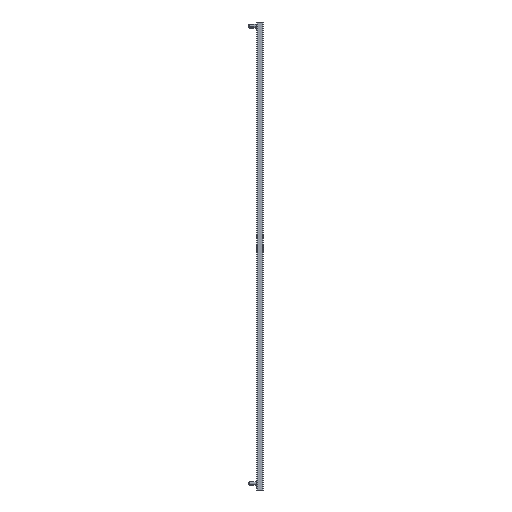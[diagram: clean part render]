
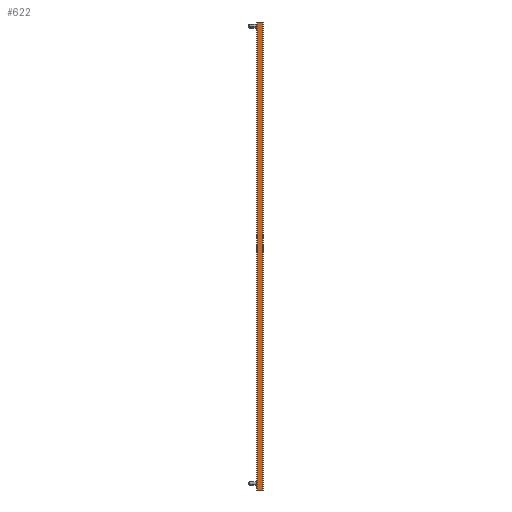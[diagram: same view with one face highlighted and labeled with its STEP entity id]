
A CAD part, left-side view. The second image highlights one B-rep face of the part: STEP entity #622.
In plain terms, the highlighted planar face has unit normal (-1, 0, 0).
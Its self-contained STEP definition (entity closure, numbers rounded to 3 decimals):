
#18 = VERTEX_POINT ( 'NONE', #2603 ) ;
#252 = CARTESIAN_POINT ( 'NONE',  ( -8., 0., 0. ) ) ;
#275 = LINE ( 'NONE', #1021, #315 ) ;
#315 = VECTOR ( 'NONE', #3752, 1000. ) ;
#451 = VERTEX_POINT ( 'NONE', #2082 ) ;
#466 = LINE ( 'NONE', #1845, #3984 ) ;
#510 = DIRECTION ( 'NONE',  ( 0., 1., 0. ) ) ;
#533 = LINE ( 'NONE', #1953, #2994 ) ;
#564 = DIRECTION ( 'NONE',  ( -1., 0., 0. ) ) ;
#622 = ADVANCED_FACE ( 'NONE', ( #2243 ), #4040, .T. ) ;
#650 = VECTOR ( 'NONE', #3501, 1000. ) ;
#680 = CARTESIAN_POINT ( 'NONE',  ( -8., 0., 0. ) ) ;
#703 = ORIENTED_EDGE ( 'NONE', *, *, #3144, .F. ) ;
#716 = CARTESIAN_POINT ( 'NONE',  ( -8., 12.5, 0. ) ) ;
#758 = ORIENTED_EDGE ( 'NONE', *, *, #1106, .T. ) ;
#981 = EDGE_CURVE ( 'NONE', #1652, #3887, #466, .T. ) ;
#996 = DIRECTION ( 'NONE',  ( 0., -1., 0. ) ) ;
#1021 = CARTESIAN_POINT ( 'NONE',  ( -8., 12.5, 879. ) ) ;
#1106 = EDGE_CURVE ( 'NONE', #3663, #1652, #2294, .T. ) ;
#1263 = CARTESIAN_POINT ( 'NONE',  ( -8., 3.2, 879. ) ) ;
#1365 = ORIENTED_EDGE ( 'NONE', *, *, #2142, .T. ) ;
#1438 = VECTOR ( 'NONE', #2259, 1000. ) ;
#1573 = VERTEX_POINT ( 'NONE', #3000 ) ;
#1605 = LINE ( 'NONE', #252, #2020 ) ;
#1614 = VERTEX_POINT ( 'NONE', #1995 ) ;
#1652 = VERTEX_POINT ( 'NONE', #1263 ) ;
#1662 = EDGE_CURVE ( 'NONE', #2830, #1614, #1605, .T. ) ;
#1786 = VECTOR ( 'NONE', #510, 1000. ) ;
#1845 = CARTESIAN_POINT ( 'NONE',  ( -8., 0., 879. ) ) ;
#1910 = ORIENTED_EDGE ( 'NONE', *, *, #3891, .T. ) ;
#1953 = CARTESIAN_POINT ( 'NONE',  ( -8., 12.5, 879. ) ) ;
#1995 = CARTESIAN_POINT ( 'NONE',  ( -8., 9.3, 0. ) ) ;
#2020 = VECTOR ( 'NONE', #996, 1000. ) ;
#2082 = CARTESIAN_POINT ( 'NONE',  ( -8., 0., 0. ) ) ;
#2142 = EDGE_CURVE ( 'NONE', #1614, #18, #4396, .T. ) ;
#2156 = ORIENTED_EDGE ( 'NONE', *, *, #2398, .T. ) ;
#2211 = CARTESIAN_POINT ( 'NONE',  ( -8., 0., 879. ) ) ;
#2243 = FACE_OUTER_BOUND ( 'NONE', #2824, .T. ) ;
#2259 = DIRECTION ( 'NONE',  ( 0., -1., 0. ) ) ;
#2294 = LINE ( 'NONE', #2639, #1786 ) ;
#2398 = EDGE_CURVE ( 'NONE', #18, #451, #2421, .T. ) ;
#2421 = LINE ( 'NONE', #680, #4210 ) ;
#2551 = DIRECTION ( 'NONE',  ( 0., 0., 1. ) ) ;
#2603 = CARTESIAN_POINT ( 'NONE',  ( -8., 3.2, 0. ) ) ;
#2639 = CARTESIAN_POINT ( 'NONE',  ( -8., 0., 879. ) ) ;
#2681 = ORIENTED_EDGE ( 'NONE', *, *, #1662, .T. ) ;
#2824 = EDGE_LOOP ( 'NONE', ( #703, #2681, #1365, #2156, #1910, #758, #4017, #3181 ) ) ;
#2830 = VERTEX_POINT ( 'NONE', #716 ) ;
#2962 = CARTESIAN_POINT ( 'NONE',  ( -8., 0., 0. ) ) ;
#2968 = DIRECTION ( 'NONE',  ( 0., 0., 1. ) ) ;
#2994 = VECTOR ( 'NONE', #2551, 1000. ) ;
#3000 = CARTESIAN_POINT ( 'NONE',  ( -8., 12.5, 879. ) ) ;
#3081 = DIRECTION ( 'NONE',  ( 0., -1., 0. ) ) ;
#3144 = EDGE_CURVE ( 'NONE', #2830, #1573, #533, .T. ) ;
#3181 = ORIENTED_EDGE ( 'NONE', *, *, #3301, .F. ) ;
#3207 = CARTESIAN_POINT ( 'NONE',  ( -8., 0., 879. ) ) ;
#3301 = EDGE_CURVE ( 'NONE', #1573, #3887, #275, .T. ) ;
#3501 = DIRECTION ( 'NONE',  ( 0., 0., 1. ) ) ;
#3517 = DIRECTION ( 'NONE',  ( 0., 1., 0. ) ) ;
#3523 = CARTESIAN_POINT ( 'NONE',  ( -8., 9.3, 879. ) ) ;
#3543 = LINE ( 'NONE', #3207, #650 ) ;
#3663 = VERTEX_POINT ( 'NONE', #2211 ) ;
#3752 = DIRECTION ( 'NONE',  ( 0., -1., 0. ) ) ;
#3887 = VERTEX_POINT ( 'NONE', #3523 ) ;
#3891 = EDGE_CURVE ( 'NONE', #451, #3663, #3543, .T. ) ;
#3984 = VECTOR ( 'NONE', #3517, 1000. ) ;
#4002 = AXIS2_PLACEMENT_3D ( 'NONE', #4385, #564, #2968 ) ;
#4017 = ORIENTED_EDGE ( 'NONE', *, *, #981, .T. ) ;
#4040 = PLANE ( 'NONE',  #4002 ) ;
#4210 = VECTOR ( 'NONE', #3081, 1000. ) ;
#4385 = CARTESIAN_POINT ( 'NONE',  ( -8., 0., 879. ) ) ;
#4396 = LINE ( 'NONE', #2962, #1438 ) ;
